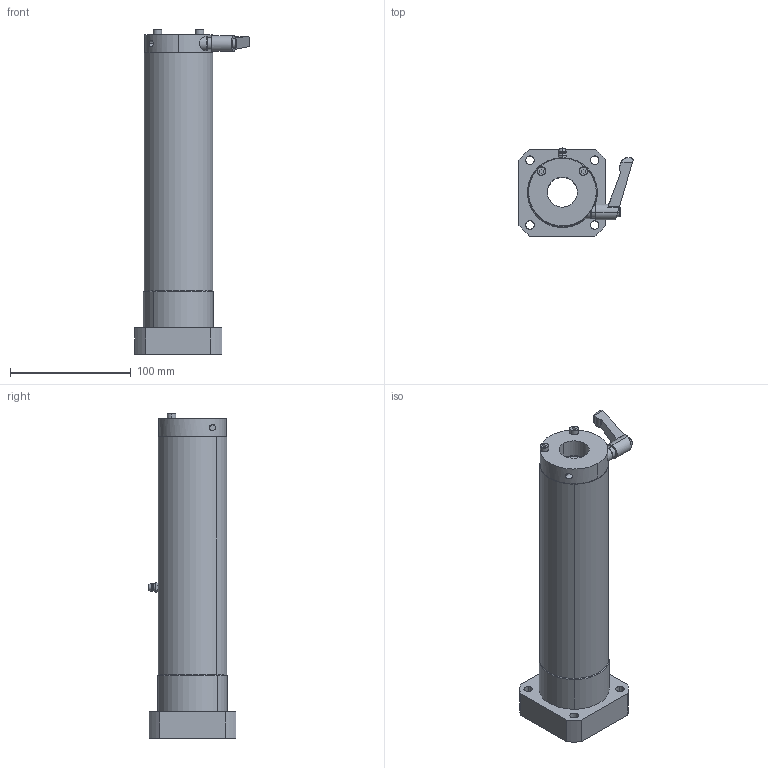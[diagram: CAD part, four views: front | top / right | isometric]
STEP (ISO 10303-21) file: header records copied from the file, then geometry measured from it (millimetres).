
FILE_DESCRIPTION (( 'STEP AP214' ), '1' );
FILE_NAME ('LFWL25B-CS.STEP', '2023-06-27T02:36:16', ( '' ), ( '' ), 'SwSTEP 2.0', 'SolidWorks 2019', '' );
FILE_SCHEMA (( 'AUTOMOTIVE_DESIGN' ));
Length unit declared in the file: millimetre
Products named in the file (3): LFWL25B; “ÁSCK2515SS-S4.5; LFWL25B-CS
Assembly tree (2 placements, depth 2):
  LFWL25B-CS
    LFWL25B
    “ÁSCK2515SS-S4.5
Bounding box: 94.6 x 72.9 x 269 mm (x, y, z)
Volume: 597711.4 mm3; surface area: 97405.4 mm2
Topology: 3 solids, 9 shells, 237 faces, 595 edges, 373 vertices
Faces by surface type: cylinder 85, plane 71, bspline 47, cone 22, torus 8, sphere 4
Entity records: 10455 total; most frequent: CARTESIAN_POINT 2320, DIRECTION 1241, ORIENTED_EDGE 1186, EDGE_CURVE 593, AXIS2_PLACEMENT_3D 519, VERTEX_POINT 372, CIRCLE 324, EDGE_LOOP 283
